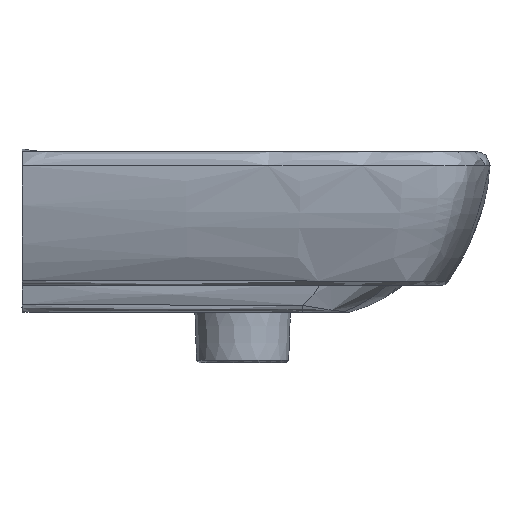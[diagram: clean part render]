
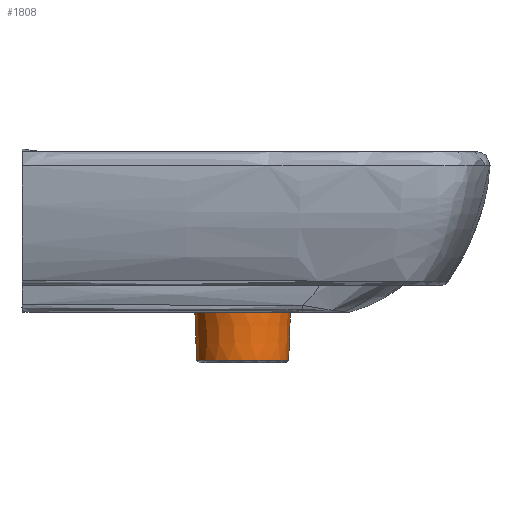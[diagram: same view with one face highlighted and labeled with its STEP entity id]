
A CAD part, left-side view. The second image highlights one B-rep face of the part: STEP entity #1808.
In plain terms, the highlighted conical face has half-angle 2 degrees and reference radius 35.48 mm.
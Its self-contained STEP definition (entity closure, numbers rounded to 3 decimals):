
#79=CONICAL_SURFACE('',#1937,35.48,0.035);
#254=FACE_BOUND('',#438,.T.);
#261=CIRCLE('',#1938,34.454);
#262=CIRCLE('',#1939,35.784);
#326=FACE_OUTER_BOUND('',#437,.T.);
#437=EDGE_LOOP('',(#1148));
#438=EDGE_LOOP('',(#1149));
#692=VERTEX_POINT('',#2714);
#693=VERTEX_POINT('',#2716);
#867=EDGE_CURVE('',#692,#692,#261,.T.);
#868=EDGE_CURVE('',#693,#693,#262,.T.);
#1148=ORIENTED_EDGE('',*,*,#867,.T.);
#1149=ORIENTED_EDGE('',*,*,#868,.F.);
#1808=ADVANCED_FACE('',(#326,#254),#79,.T.);
#1937=AXIS2_PLACEMENT_3D('',#2713,#2059,#2060);
#1938=AXIS2_PLACEMENT_3D('',#2715,#2061,#2062);
#1939=AXIS2_PLACEMENT_3D('',#2717,#2063,#2064);
#2059=DIRECTION('center_axis',(0.,0.,
1.));
#2060=DIRECTION('ref_axis',(0.,1.,0.));
#2061=DIRECTION('center_axis',(0.,0.,
1.));
#2062=DIRECTION('ref_axis',(0.,-1.,0.));
#2063=DIRECTION('center_axis',(0.,0.,
1.));
#2064=DIRECTION('ref_axis',(0.,1.,0.));
#2713=CARTESIAN_POINT('Origin',(0.,-165.,
723.543));
#2714=CARTESIAN_POINT('',(0.,-130.546,694.162));
#2715=CARTESIAN_POINT('Origin',(0.,-165.,694.162));
#2716=CARTESIAN_POINT('',(0.,-200.784,732.232));
#2717=CARTESIAN_POINT('Origin',(0.,-165.,
732.232));
